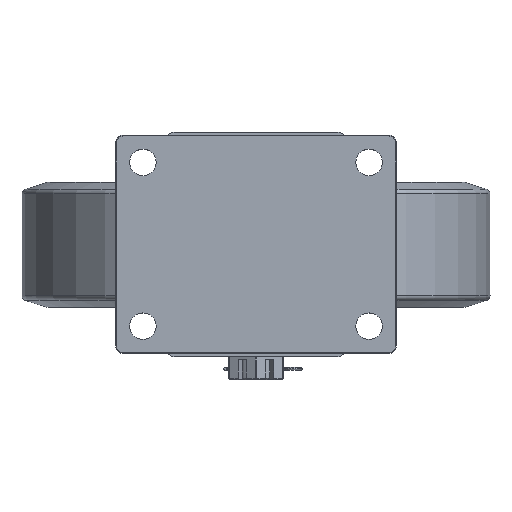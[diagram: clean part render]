
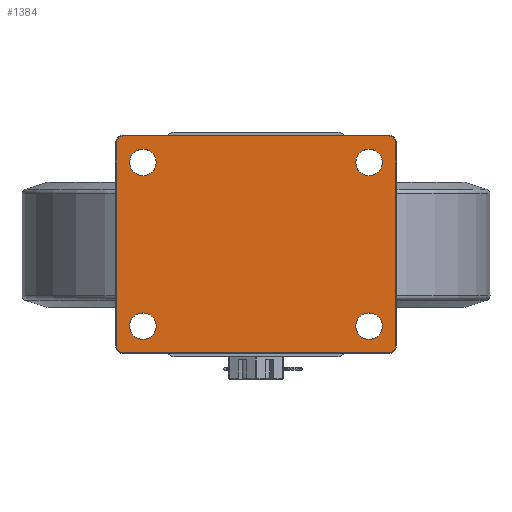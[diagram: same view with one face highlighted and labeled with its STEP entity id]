
A CAD part, top view. The second image highlights one B-rep face of the part: STEP entity #1384.
In plain terms, the highlighted planar face has unit normal (0, 0, 1).
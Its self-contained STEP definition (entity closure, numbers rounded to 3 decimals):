
#97=FACE_BOUND('',#2750,.T.);
#98=FACE_BOUND('',#2751,.T.);
#99=FACE_BOUND('',#2752,.T.);
#100=FACE_BOUND('',#2753,.T.);
#101=FACE_BOUND('',#2754,.T.);
#527=PLANE('',#12079);
#1384=ADVANCED_FACE('',(#97,#98,#99,#100,#101),#527,.T.);
#2750=EDGE_LOOP('',(#7498,#7499,#7500,#7501,#7502,#7503,#7504,#7505));
#2751=EDGE_LOOP('',(#7506,#7507));
#2752=EDGE_LOOP('',(#7508,#7509));
#2753=EDGE_LOOP('',(#7510,#7511));
#2754=EDGE_LOOP('',(#7512,#7513));
#3982=LINE('',#23508,#4590);
#3985=LINE('',#23516,#4593);
#3988=LINE('',#23524,#4596);
#3990=LINE('',#23530,#4598);
#4590=VECTOR('',#14614,1.);
#4593=VECTOR('',#14623,1.);
#4596=VECTOR('',#14632,1.);
#4598=VECTOR('',#14640,1.);
#7498=ORIENTED_EDGE('',*,*,#10544,.F.);
#7499=ORIENTED_EDGE('',*,*,#10542,.F.);
#7500=ORIENTED_EDGE('',*,*,#10540,.F.);
#7501=ORIENTED_EDGE('',*,*,#10538,.F.);
#7502=ORIENTED_EDGE('',*,*,#10536,.F.);
#7503=ORIENTED_EDGE('',*,*,#10534,.F.);
#7504=ORIENTED_EDGE('',*,*,#10547,.F.);
#7505=ORIENTED_EDGE('',*,*,#10546,.F.);
#7506=ORIENTED_EDGE('',*,*,#10505,.F.);
#7507=ORIENTED_EDGE('',*,*,#10508,.F.);
#7508=ORIENTED_EDGE('',*,*,#10499,.F.);
#7509=ORIENTED_EDGE('',*,*,#10502,.F.);
#7510=ORIENTED_EDGE('',*,*,#10493,.F.);
#7511=ORIENTED_EDGE('',*,*,#10496,.F.);
#7512=ORIENTED_EDGE('',*,*,#10487,.F.);
#7513=ORIENTED_EDGE('',*,*,#10490,.F.);
#8909=VERTEX_POINT('',#23408);
#8911=VERTEX_POINT('',#23411);
#8913=VERTEX_POINT('',#23420);
#8915=VERTEX_POINT('',#23423);
#8917=VERTEX_POINT('',#23432);
#8919=VERTEX_POINT('',#23435);
#8921=VERTEX_POINT('',#23444);
#8923=VERTEX_POINT('',#23447);
#8941=VERTEX_POINT('',#23501);
#8942=VERTEX_POINT('',#23503);
#8943=VERTEX_POINT('',#23507);
#8944=VERTEX_POINT('',#23511);
#8945=VERTEX_POINT('',#23515);
#8946=VERTEX_POINT('',#23519);
#8947=VERTEX_POINT('',#23523);
#8948=VERTEX_POINT('',#23527);
#10487=EDGE_CURVE('',#8909,#8911,#11052,.T.);
#10490=EDGE_CURVE('',#8911,#8909,#11054,.T.);
#10493=EDGE_CURVE('',#8913,#8915,#11056,.T.);
#10496=EDGE_CURVE('',#8915,#8913,#11058,.T.);
#10499=EDGE_CURVE('',#8917,#8919,#11060,.T.);
#10502=EDGE_CURVE('',#8919,#8917,#11062,.T.);
#10505=EDGE_CURVE('',#8921,#8923,#11064,.T.);
#10508=EDGE_CURVE('',#8923,#8921,#11066,.T.);
#10534=EDGE_CURVE('',#8942,#8941,#11076,.T.);
#10536=EDGE_CURVE('',#8941,#8943,#3982,.T.);
#10538=EDGE_CURVE('',#8943,#8944,#11077,.T.);
#10540=EDGE_CURVE('',#8944,#8945,#3985,.T.);
#10542=EDGE_CURVE('',#8945,#8946,#11078,.T.);
#10544=EDGE_CURVE('',#8946,#8947,#3988,.T.);
#10546=EDGE_CURVE('',#8947,#8948,#11079,.T.);
#10547=EDGE_CURVE('',#8948,#8942,#3990,.T.);
#11052=CIRCLE('',#12029,8.5);
#11054=CIRCLE('',#12032,8.5);
#11056=CIRCLE('',#12035,8.5);
#11058=CIRCLE('',#12038,8.5);
#11060=CIRCLE('',#12041,8.5);
#11062=CIRCLE('',#12044,8.5);
#11064=CIRCLE('',#12047,8.5);
#11066=CIRCLE('',#12050,8.5);
#11076=CIRCLE('',#12068,4.5);
#11077=CIRCLE('',#12071,4.5);
#11078=CIRCLE('',#12074,4.5);
#11079=CIRCLE('',#12077,4.5);
#12029=AXIS2_PLACEMENT_3D('',#23410,#14508,#14509);
#12032=AXIS2_PLACEMENT_3D('',#23416,#14515,#14516);
#12035=AXIS2_PLACEMENT_3D('',#23422,#14522,#14523);
#12038=AXIS2_PLACEMENT_3D('',#23428,#14529,#14530);
#12041=AXIS2_PLACEMENT_3D('',#23434,#14536,#14537);
#12044=AXIS2_PLACEMENT_3D('',#23440,#14543,#14544);
#12047=AXIS2_PLACEMENT_3D('',#23446,#14550,#14551);
#12050=AXIS2_PLACEMENT_3D('',#23452,#14557,#14558);
#12068=AXIS2_PLACEMENT_3D('',#23504,#14609,#14610);
#12071=AXIS2_PLACEMENT_3D('',#23512,#14618,#14619);
#12074=AXIS2_PLACEMENT_3D('',#23520,#14627,#14628);
#12077=AXIS2_PLACEMENT_3D('',#23528,#14636,#14637);
#12079=AXIS2_PLACEMENT_3D('',#23531,#14641,#14642);
#14508=DIRECTION('',(0.,0.,1.));
#14509=DIRECTION('',(-1.,0.,0.));
#14515=DIRECTION('',(0.,0.,1.));
#14516=DIRECTION('',(1.,0.,0.));
#14522=DIRECTION('',(0.,0.,1.));
#14523=DIRECTION('',(-1.,0.,0.));
#14529=DIRECTION('',(0.,0.,1.));
#14530=DIRECTION('',(1.,0.,0.));
#14536=DIRECTION('',(0.,0.,1.));
#14537=DIRECTION('',(-1.,0.,0.));
#14543=DIRECTION('',(0.,0.,1.));
#14544=DIRECTION('',(1.,0.,0.));
#14550=DIRECTION('',(0.,0.,1.));
#14551=DIRECTION('',(-1.,0.,0.));
#14557=DIRECTION('',(0.,0.,1.));
#14558=DIRECTION('',(1.,0.,0.));
#14609=DIRECTION('',(0.,0.,-1.));
#14610=DIRECTION('',(0.,-1.,0.));
#14614=DIRECTION('',(0.,1.,0.));
#14618=DIRECTION('',(0.,0.,-1.));
#14619=DIRECTION('',(-1.,0.,0.));
#14623=DIRECTION('',(1.,0.,0.));
#14627=DIRECTION('',(0.,0.,-1.));
#14628=DIRECTION('',(0.,1.,0.));
#14632=DIRECTION('',(0.,-1.,0.));
#14636=DIRECTION('',(0.,0.,-1.));
#14637=DIRECTION('',(1.,0.,0.));
#14640=DIRECTION('',(-1.,0.,0.));
#14641=DIRECTION('',(0.,0.,1.));
#14642=DIRECTION('',(1.,0.,0.));
#23408=CARTESIAN_POINT('',(-81.,-52.5,0.));
#23410=CARTESIAN_POINT('',(-72.5,-52.5,0.));
#23411=CARTESIAN_POINT('',(-64.,-52.5,0.));
#23416=CARTESIAN_POINT('',(-72.5,-52.5,0.));
#23420=CARTESIAN_POINT('',(64.,52.5,0.));
#23422=CARTESIAN_POINT('',(72.5,52.5,0.));
#23423=CARTESIAN_POINT('',(81.,52.5,0.));
#23428=CARTESIAN_POINT('',(72.5,52.5,0.));
#23432=CARTESIAN_POINT('',(64.,-52.5,0.));
#23434=CARTESIAN_POINT('',(72.5,-52.5,0.));
#23435=CARTESIAN_POINT('',(81.,-52.5,0.));
#23440=CARTESIAN_POINT('',(72.5,-52.5,0.));
#23444=CARTESIAN_POINT('',(-81.,52.5,0.));
#23446=CARTESIAN_POINT('',(-72.5,52.5,0.));
#23447=CARTESIAN_POINT('',(-64.,52.5,0.));
#23452=CARTESIAN_POINT('',(-72.5,52.5,0.));
#23501=CARTESIAN_POINT('',(-89.5,-65.,0.));
#23503=CARTESIAN_POINT('',(-85.,-69.5,0.));
#23504=CARTESIAN_POINT('',(-85.,-65.,0.));
#23507=CARTESIAN_POINT('',(-89.5,65.,0.));
#23508=CARTESIAN_POINT('',(-89.5,-65.,0.));
#23511=CARTESIAN_POINT('',(-85.,69.5,0.));
#23512=CARTESIAN_POINT('',(-85.,65.,0.));
#23515=CARTESIAN_POINT('',(85.,69.5,0.));
#23516=CARTESIAN_POINT('',(-85.,69.5,0.));
#23519=CARTESIAN_POINT('',(89.5,65.,0.));
#23520=CARTESIAN_POINT('',(85.,65.,0.));
#23523=CARTESIAN_POINT('',(89.5,-65.,0.));
#23524=CARTESIAN_POINT('',(89.5,65.,0.));
#23527=CARTESIAN_POINT('',(85.,-69.5,0.));
#23528=CARTESIAN_POINT('',(85.,-65.,0.));
#23530=CARTESIAN_POINT('',(85.,-69.5,0.));
#23531=CARTESIAN_POINT('',(0.,0.,0.));
